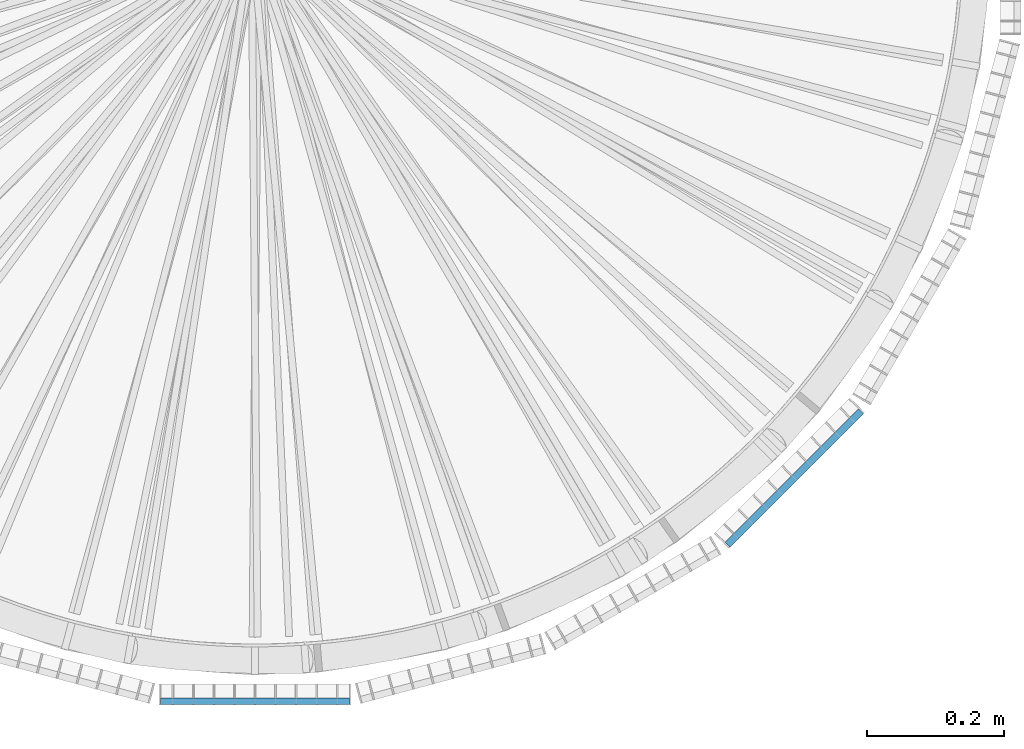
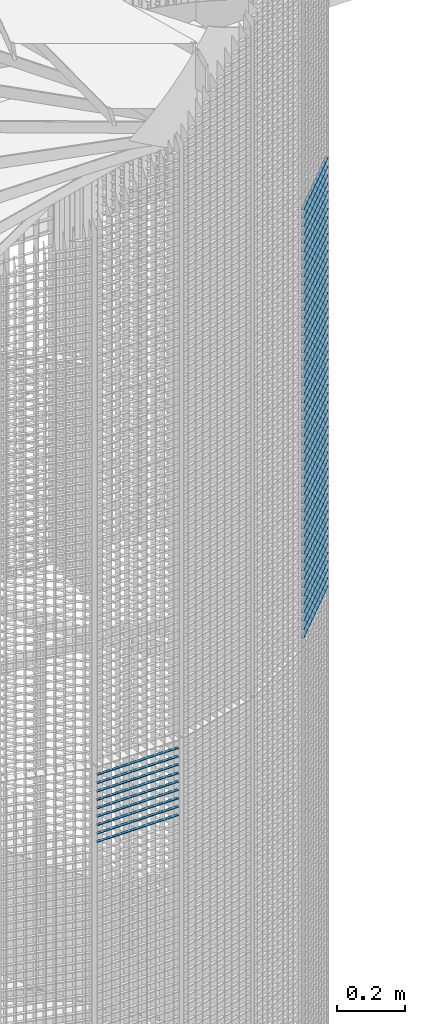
# One storey, part 400 of 1148: 61 beams, 2 elements without a shape of their own.
"""IFC2X3 building model written with IfcOpenShell, lengths in millimetres."""

import ifcopenshell
import ifcopenshell.guid

model = None  # the IFC model being written
_history = None  # IfcOwnerHistory: only IFC2X3 demands one
_inside = {}  # id of a spatial element -> (the spatial element, [elements in it])
_under = {}  # id of a project, library or spatial element -> (it, [spatial elements below it])
_declared = {}  # id of a project -> (the project, [libraries it declares])
_typed = {}  # id of a type object -> (the type object, [elements of that type])
_made_of = {}  # id of a material, layer set ... -> (it, [elements and type objects made of it])


def new_model(schema):
    """Start an empty IFC model of exactly this schema.

    Asked for "IFC4X3", IfcOpenShell would pick the latest addendum, in which some entities
    have other attributes; the version numbers below select the first issue.
    IFC2X3 requires an IfcOwnerHistory on every rooted entity: one is made here for all.
    """
    global model, _history
    if schema == "IFC4X3":
        model = ifcopenshell.file(schema_version=(4, 3, 0, 0))
    else:
        model = ifcopenshell.file(schema=schema)
    _inside.clear()
    _under.clear()
    _declared.clear()
    _typed.clear()
    _made_of.clear()
    _history = None
    if model.schema == "IFC2X3":
        org = make("IfcOrganization", Name="unknown")
        user = make(
            "IfcPersonAndOrganization",
            ThePerson=make("IfcPerson", FamilyName="unknown"),
            TheOrganization=org,
        )
        app = make(
            "IfcApplication",
            ApplicationDeveloper=org,
            Version="unknown",
            ApplicationFullName="unknown",
            ApplicationIdentifier="unknown",
        )
        _history = make(
            "IfcOwnerHistory",
            OwningUser=user,
            OwningApplication=app,
            ChangeAction="ADDED",
            CreationDate=0,
        )
    return model


def make(cls, **values):
    """One entity of the class cls with the attributes given. An attribute that is None is left unset."""
    return model.create_entity(
        cls, **{name: value for name, value in values.items() if value is not None}
    )


def rooted(cls, **values):
    """An entity with a GlobalId (a new one), such as an element, a storey or a relation."""
    return make(cls, GlobalId=ifcopenshell.guid.new(), OwnerHistory=_history, **values)


def si_unit(unit_type, name, prefix=None):
    """IfcSIUnit, for example si_unit("LENGTHUNIT", "METRE", prefix="MILLI")."""
    return make("IfcSIUnit", UnitType=unit_type, Prefix=prefix, Name=name)


def assignment(units):
    """IfcUnitAssignment: the units of a project."""
    return None if units is None else make("IfcUnitAssignment", Units=units)


def point(xyz):
    """IfcCartesianPoint."""
    return None if xyz is None else make("IfcCartesianPoint", Coordinates=xyz)


def direction(xyz):
    """IfcDirection."""
    return None if xyz is None else make("IfcDirection", DirectionRatios=xyz)


def frame(location, z_axis=None, x_axis=None):
    """IfcAxis2Placement3D, a coordinate frame: its origin and axes. An axis left out is left unset."""
    return make(
        "IfcAxis2Placement3D",
        Location=point(location),
        Axis=direction(z_axis),
        RefDirection=direction(x_axis),
    )


def frame_2d(location, x_axis=None):
    """IfcAxis2Placement2D, a coordinate frame in the plane: its origin and x axis."""
    return make(
        "IfcAxis2Placement2D", Location=point(location), RefDirection=direction(x_axis)
    )


def origin_with_axes():
    """The frame at (0, 0, 0) with the z axis (0, 0, 1) and the x axis (1, 0, 0) written out."""
    return frame((0.0, 0.0, 0.0), z_axis=(0.0, 0.0, 1.0), x_axis=(1.0, 0.0, 0.0))


def origin_2d_with_axis():
    """The frame at (0, 0) in the plane with the x axis (1, 0) written out."""
    return frame_2d((0.0, 0.0), x_axis=(1.0, 0.0))


def place(relative_to, where):
    """IfcLocalPlacement: puts the frame where relative to a parent placement (None: the world)."""
    return make(
        "IfcLocalPlacement", PlacementRelTo=relative_to, RelativePlacement=where
    )


def context(
    kind, dimensions, precision=None, world=None, true_north=None, identifier=None
):
    """IfcGeometricRepresentationContext, for example the 3D "Model" context."""
    return make(
        "IfcGeometricRepresentationContext",
        ContextIdentifier=identifier,
        ContextType=kind,
        CoordinateSpaceDimension=dimensions,
        Precision=precision,
        WorldCoordinateSystem=world,
        TrueNorth=true_north,
    )


def subcontext(parent, identifier, kind, view, scale=None):
    """IfcGeometricRepresentationSubContext, for example "Body" below "Model"."""
    return make(
        "IfcGeometricRepresentationSubContext",
        ContextIdentifier=identifier,
        ContextType=kind,
        ParentContext=parent,
        TargetScale=scale,
        TargetView=view,
    )


def project(units=None, contexts=None):
    """IfcProject with its units and contexts."""
    return rooted(
        "IfcProject",
        Name="project",
        RepresentationContexts=contexts,
        UnitsInContext=assignment(units),
    )


def spatial(cls, under=None, at=None, **own):
    """A site, building, storey or space (cls), placed at a placement, below another one or the project."""
    s = rooted(cls, ObjectPlacement=at, **own)
    if under is not None:
        _under.setdefault(under.id(), (under, []))[1].append(s)
    return s


def profile(cls, at=None, kind="AREA", **sizes):
    """A parametric profile (cls). Its sizes go by their IFC names, for example OverallWidth=200.0."""
    return make(cls, ProfileType=kind, Position=at, **sizes)


def rectangle(**sizes):
    """IfcRectangleProfileDef."""
    return profile("IfcRectangleProfileDef", **sizes)


def extrude(swept, where, along, depth):
    """IfcExtrudedAreaSolid: the profile swept, set in the frame where, extruded along a direction by depth."""
    return make(
        "IfcExtrudedAreaSolid",
        SweptArea=swept,
        Position=where,
        ExtrudedDirection=direction(along),
        Depth=depth,
    )


def shape(context_of_items, identifier, shape_type, items):
    """IfcShapeRepresentation: the items that make up one representation, for example the "Body"."""
    return make(
        "IfcShapeRepresentation",
        ContextOfItems=context_of_items,
        RepresentationIdentifier=identifier,
        RepresentationType=shape_type,
        Items=items,
    )


def material(Name=None, Category=None):
    """IfcMaterial."""
    return make("IfcMaterial", Name=Name, Category=Category)


def made_of(thing, what):
    """Note that an element or type object is made of a material, layer set ...; save() writes the relation."""
    if what is not None:
        _made_of.setdefault(what.id(), (what, []))[1].append(thing)
    return thing


def type_object(cls, material=None, **own):
    """A type object (cls), such as IfcWallType, which elements share."""
    return made_of(rooted(cls, **own), material)


def element(
    cls,
    number,
    at=None,
    inside=None,
    cuts=None,
    type_object=None,
    material=None,
    context=None,
    identifier="Body",
    shape_type=None,
    held_by="IfcProductDefinitionShape",
    body=None,
    shapes=None,
    **own,
):
    """One element of the class cls, such as IfcWall. Its Tag is "e" and its number.

    at: its placement. inside: the storey or other place that contains it. cuts: it is an
    opening in that element (IfcRelVoidsElement). A single representation is given by context,
    identifier, shape_type and body (its items); several are given by shapes. held_by: the class
    of the entity that holds the representations. save() writes the other relations.
    """
    e = rooted(cls, Tag="e%d" % number, ObjectPlacement=at, **own)
    if body is not None:
        shapes = [shape(context, identifier, shape_type, body)]
    if shapes is not None:
        e.Representation = make(held_by, Representations=shapes)
    if inside is not None:
        _inside.setdefault(inside.id(), (inside, []))[1].append(e)
    if cuts is not None:
        rooted(
            "IfcRelVoidsElement", RelatingBuildingElement=cuts, RelatedOpeningElement=e
        )
    if type_object is not None:
        _typed.setdefault(type_object.id(), (type_object, []))[1].append(e)
    return made_of(e, material)


def aggregate(whole, parts):
    """IfcRelAggregates: a whole, such as a stair, and the parts it consists of."""
    return rooted("IfcRelAggregates", RelatingObject=whole, RelatedObjects=parts)


def save(model, path):
    """Write the relations noted so far, then the file.

    IfcRelAggregates (storeys below a building ...), IfcRelContainedInSpatialStructure (elements
    in a storey), IfcRelDefinesByType, IfcRelAssociatesMaterial and IfcRelDeclares: one each for
    every whole, place, type object, material and project.
    """
    for whole, parts in _under.values():
        aggregate(whole, parts)
    for where, things in _inside.values():
        rooted(
            "IfcRelContainedInSpatialStructure",
            RelatedElements=things,
            RelatingStructure=where,
        )
    for kind, things in _typed.values():
        rooted("IfcRelDefinesByType", RelatedObjects=things, RelatingType=kind)
    for what, things in _made_of.values():
        rooted("IfcRelAssociatesMaterial", RelatedObjects=things, RelatingMaterial=what)
    for by, libraries in _declared.values():
        rooted("IfcRelDeclares", RelatingContext=by, RelatedDefinitions=libraries)
    model.write(path)


model = new_model("IFC2X3")

# Units and contexts
model_context = context("Model", 3, precision=1e-05, world=origin_with_axes())
body_context = subcontext(model_context, "Body", "Model", "MODEL_VIEW")
ifc_project = project(units=[si_unit("LENGTHUNIT", "METRE", prefix="MILLI"), si_unit("AREAUNIT", "SQUARE_METRE"), si_unit("VOLUMEUNIT", "CUBIC_METRE"), si_unit("MASSUNIT", "GRAM", prefix="KILO"), si_unit("TIMEUNIT", "SECOND"), si_unit("PLANEANGLEUNIT", "RADIAN"), si_unit("SOLIDANGLEUNIT", "STERADIAN"), si_unit("THERMODYNAMICTEMPERATUREUNIT", "DEGREE_CELSIUS"), si_unit("LUMINOUSINTENSITYUNIT", "LUMEN")], contexts=[model_context])

# Site, building, storey
site_placement = place(None, origin_with_axes())
site = spatial("IfcSite", under=ifc_project, at=site_placement, Name="Undefined", CompositionType="ELEMENT")
building_placement = place(site_placement, origin_with_axes())
building = spatial("IfcBuilding", under=site, at=building_placement, Name="Undefined", CompositionType="ELEMENT")
storey_placement = place(building_placement, origin_with_axes())
storey = spatial("IfcBuildingStorey", under=building, at=storey_placement, Name="Undefined", CompositionType="ELEMENT", Elevation=0.0)

# Assembly, beams
assembly_1_placement = place(storey_placement, origin_with_axes())
assembly_1 = element("IfcElementAssembly", 1, at=assembly_1_placement, inside=storey, Name="BORDURE", AssemblyPlace="NOTDEFINED", PredefinedType="NOTDEFINED")
ifc_material = material(Name="STEEL/S235JR")
beam_type = type_object("IfcBeamType", Name="PL2*10", PredefinedType="NOTDEFINED")
beam_1_placement = place(assembly_1_placement, frame((22484.9271684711, -689.771348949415, 7560.0), z_axis=(0.707106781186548, -0.707106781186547, 0.0), x_axis=(-0.70710678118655, -0.707106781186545, 0.0)))
beam_1 = element("IfcBeam", 2, at=beam_1_placement, type_object=beam_type, material=ifc_material, Name="ENTRETOISE", context=body_context, shape_type="SweptSolid", body=[
    extrude(rectangle(XDim=2.0, YDim=10.0, at=origin_2d_with_axis()), frame((275.999999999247, 9.09494701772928e-13, 1.53210777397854e-14), z_axis=(-1.0, 0.0, 0.0), x_axis=(0.0, -1.0, 0.0)), (0.0, 0.0, 1.0), 276.0),
])
beam_2_placement = place(assembly_1_placement, frame((22484.9271684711, -689.771348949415, 7530.0), z_axis=(0.707106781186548, -0.707106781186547, 0.0), x_axis=(-0.70710678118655, -0.707106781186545, 0.0)))
beam_2 = element("IfcBeam", 3, at=beam_2_placement, type_object=beam_type, material=ifc_material, Name="ENTRETOISE", context=body_context, shape_type="SweptSolid", body=[
    extrude(rectangle(XDim=2.0, YDim=10.0, at=origin_2d_with_axis()), frame((275.999999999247, 9.09494701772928e-13, 1.53210777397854e-14), z_axis=(-1.0, 0.0, 0.0), x_axis=(0.0, -1.0, 0.0)), (0.0, 0.0, 1.0), 276.0),
])
beam_3_placement = place(assembly_1_placement, frame((22484.9271684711, -689.771348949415, 7500.0), z_axis=(0.707106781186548, -0.707106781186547, 0.0), x_axis=(-0.70710678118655, -0.707106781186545, 0.0)))
beam_3 = element("IfcBeam", 4, at=beam_3_placement, type_object=beam_type, material=ifc_material, Name="ENTRETOISE", context=body_context, shape_type="SweptSolid", body=[
    extrude(rectangle(XDim=2.0, YDim=10.0, at=origin_2d_with_axis()), frame((275.999999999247, 9.09494701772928e-13, 1.53210777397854e-14), z_axis=(-1.0, 0.0, 0.0), x_axis=(0.0, -1.0, 0.0)), (0.0, 0.0, 1.0), 276.0),
])
beam_4_placement = place(assembly_1_placement, frame((22484.9271684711, -689.771348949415, 7470.0), z_axis=(0.707106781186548, -0.707106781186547, 0.0), x_axis=(-0.70710678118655, -0.707106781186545, 0.0)))
beam_4 = element("IfcBeam", 5, at=beam_4_placement, type_object=beam_type, material=ifc_material, Name="ENTRETOISE", context=body_context, shape_type="SweptSolid", body=[
    extrude(rectangle(XDim=2.0, YDim=10.0, at=origin_2d_with_axis()), frame((275.999999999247, 9.09494701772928e-13, 1.53210777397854e-14), z_axis=(-1.0, 0.0, 0.0), x_axis=(0.0, -1.0, 0.0)), (0.0, 0.0, 1.0), 276.0),
])
beam_5_placement = place(assembly_1_placement, frame((22484.9271684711, -689.771348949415, 7440.0), z_axis=(0.707106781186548, -0.707106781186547, 0.0), x_axis=(-0.70710678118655, -0.707106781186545, 0.0)))
beam_5 = element("IfcBeam", 6, at=beam_5_placement, type_object=beam_type, material=ifc_material, Name="ENTRETOISE", context=body_context, shape_type="SweptSolid", body=[
    extrude(rectangle(XDim=2.0, YDim=10.0, at=origin_2d_with_axis()), frame((275.999999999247, 9.09494701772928e-13, 1.53210777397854e-14), z_axis=(-1.0, 0.0, 0.0), x_axis=(0.0, -1.0, 0.0)), (0.0, 0.0, 1.0), 276.0),
])
beam_6_placement = place(assembly_1_placement, frame((22484.9271684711, -689.771348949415, 7410.0), z_axis=(0.707106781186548, -0.707106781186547, 0.0), x_axis=(-0.70710678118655, -0.707106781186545, 0.0)))
beam_6 = element("IfcBeam", 7, at=beam_6_placement, type_object=beam_type, material=ifc_material, Name="ENTRETOISE", context=body_context, shape_type="SweptSolid", body=[
    extrude(rectangle(XDim=2.0, YDim=10.0, at=origin_2d_with_axis()), frame((275.999999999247, 9.09494701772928e-13, 1.53210777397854e-14), z_axis=(-1.0, 0.0, 0.0), x_axis=(0.0, -1.0, 0.0)), (0.0, 0.0, 1.0), 276.0),
])
beam_7_placement = place(assembly_1_placement, frame((22484.9271684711, -689.771348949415, 7380.0), z_axis=(0.707106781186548, -0.707106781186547, 0.0), x_axis=(-0.70710678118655, -0.707106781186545, 0.0)))
beam_7 = element("IfcBeam", 8, at=beam_7_placement, type_object=beam_type, material=ifc_material, Name="ENTRETOISE", context=body_context, shape_type="SweptSolid", body=[
    extrude(rectangle(XDim=2.0, YDim=10.0, at=origin_2d_with_axis()), frame((275.999999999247, 9.09494701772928e-13, 1.53210777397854e-14), z_axis=(-1.0, 0.0, 0.0), x_axis=(0.0, -1.0, 0.0)), (0.0, 0.0, 1.0), 276.0),
])
beam_8_placement = place(assembly_1_placement, frame((22484.9271684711, -689.771348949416, 7350.0), z_axis=(0.707106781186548, -0.707106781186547, 0.0), x_axis=(-0.70710678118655, -0.707106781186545, 0.0)))
beam_8 = element("IfcBeam", 9, at=beam_8_placement, type_object=beam_type, material=ifc_material, Name="ENTRETOISE", context=body_context, shape_type="SweptSolid", body=[
    extrude(rectangle(XDim=2.0, YDim=10.0, at=origin_2d_with_axis()), frame((275.999999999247, 9.09494701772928e-13, 1.53210777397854e-14), z_axis=(-1.0, 0.0, 0.0), x_axis=(0.0, -1.0, 0.0)), (0.0, 0.0, 1.0), 276.0),
])
beam_9_placement = place(assembly_1_placement, frame((22484.9271684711, -689.771348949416, 7320.0), z_axis=(0.707106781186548, -0.707106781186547, 0.0), x_axis=(-0.70710678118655, -0.707106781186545, 0.0)))
beam_9 = element("IfcBeam", 10, at=beam_9_placement, type_object=beam_type, material=ifc_material, Name="ENTRETOISE", context=body_context, shape_type="SweptSolid", body=[
    extrude(rectangle(XDim=2.0, YDim=10.0, at=origin_2d_with_axis()), frame((275.999999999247, 9.09494701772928e-13, 1.53210777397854e-14), z_axis=(-1.0, 0.0, 0.0), x_axis=(0.0, -1.0, 0.0)), (0.0, 0.0, 1.0), 276.0),
])
beam_10_placement = place(assembly_1_placement, frame((22484.9271684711, -689.771348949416, 7290.0), z_axis=(0.707106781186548, -0.707106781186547, 0.0), x_axis=(-0.70710678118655, -0.707106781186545, 0.0)))
beam_10 = element("IfcBeam", 11, at=beam_10_placement, type_object=beam_type, material=ifc_material, Name="ENTRETOISE", context=body_context, shape_type="SweptSolid", body=[
    extrude(rectangle(XDim=2.0, YDim=10.0, at=origin_2d_with_axis()), frame((275.999999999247, 9.09494701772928e-13, 1.53210777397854e-14), z_axis=(-1.0, 0.0, 0.0), x_axis=(0.0, -1.0, 0.0)), (0.0, 0.0, 1.0), 276.0),
])
beam_11_placement = place(assembly_1_placement, frame((22484.9271684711, -689.771348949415, 7260.0), z_axis=(0.707106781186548, -0.707106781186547, 0.0), x_axis=(-0.70710678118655, -0.707106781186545, 0.0)))
beam_11 = element("IfcBeam", 12, at=beam_11_placement, type_object=beam_type, material=ifc_material, Name="ENTRETOISE", context=body_context, shape_type="SweptSolid", body=[
    extrude(rectangle(XDim=2.0, YDim=10.0, at=origin_2d_with_axis()), frame((275.999999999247, 9.09494701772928e-13, 1.53210777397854e-14), z_axis=(-1.0, 0.0, 0.0), x_axis=(0.0, -1.0, 0.0)), (0.0, 0.0, 1.0), 276.0),
])
beam_12_placement = place(assembly_1_placement, frame((22484.9271684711, -689.771348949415, 7230.0), z_axis=(0.707106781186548, -0.707106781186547, 0.0), x_axis=(-0.70710678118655, -0.707106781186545, 0.0)))
beam_12 = element("IfcBeam", 13, at=beam_12_placement, type_object=beam_type, material=ifc_material, Name="ENTRETOISE", context=body_context, shape_type="SweptSolid", body=[
    extrude(rectangle(XDim=2.0, YDim=10.0, at=origin_2d_with_axis()), frame((275.999999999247, 9.09494701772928e-13, 1.53210777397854e-14), z_axis=(-1.0, 0.0, 0.0), x_axis=(0.0, -1.0, 0.0)), (0.0, 0.0, 1.0), 276.0),
])
beam_13_placement = place(assembly_1_placement, frame((22484.9271684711, -689.771348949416, 7200.0), z_axis=(0.707106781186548, -0.707106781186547, 0.0), x_axis=(-0.70710678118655, -0.707106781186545, 0.0)))
beam_13 = element("IfcBeam", 14, at=beam_13_placement, type_object=beam_type, material=ifc_material, Name="ENTRETOISE", context=body_context, shape_type="SweptSolid", body=[
    extrude(rectangle(XDim=2.0, YDim=10.0, at=origin_2d_with_axis()), frame((275.999999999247, 9.09494701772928e-13, 1.53210777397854e-14), z_axis=(-1.0, 0.0, 0.0), x_axis=(0.0, -1.0, 0.0)), (0.0, 0.0, 1.0), 276.0),
])
beam_14_placement = place(assembly_1_placement, frame((22484.9271684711, -689.771348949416, 7170.0), z_axis=(0.707106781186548, -0.707106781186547, 0.0), x_axis=(-0.70710678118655, -0.707106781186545, 0.0)))
beam_14 = element("IfcBeam", 15, at=beam_14_placement, type_object=beam_type, material=ifc_material, Name="ENTRETOISE", context=body_context, shape_type="SweptSolid", body=[
    extrude(rectangle(XDim=2.0, YDim=10.0, at=origin_2d_with_axis()), frame((275.999999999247, 9.09494701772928e-13, 1.53210777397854e-14), z_axis=(-1.0, 0.0, 0.0), x_axis=(0.0, -1.0, 0.0)), (0.0, 0.0, 1.0), 276.0),
])
beam_15_placement = place(assembly_1_placement, frame((22484.9271684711, -689.771348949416, 7140.0), z_axis=(0.707106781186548, -0.707106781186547, 0.0), x_axis=(-0.70710678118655, -0.707106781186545, 0.0)))
beam_15 = element("IfcBeam", 16, at=beam_15_placement, type_object=beam_type, material=ifc_material, Name="ENTRETOISE", context=body_context, shape_type="SweptSolid", body=[
    extrude(rectangle(XDim=2.0, YDim=10.0, at=origin_2d_with_axis()), frame((275.999999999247, 9.09494701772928e-13, 1.53210777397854e-14), z_axis=(-1.0, 0.0, 0.0), x_axis=(0.0, -1.0, 0.0)), (0.0, 0.0, 1.0), 276.0),
])
beam_16_placement = place(assembly_1_placement, frame((22484.9271684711, -689.771348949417, 6720.0), z_axis=(0.707106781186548, -0.707106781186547, 0.0), x_axis=(-0.70710678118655, -0.707106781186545, 0.0)))
beam_16 = element("IfcBeam", 17, at=beam_16_placement, type_object=beam_type, material=ifc_material, Name="ENTRETOISE", context=body_context, shape_type="SweptSolid", body=[
    extrude(rectangle(XDim=2.0, YDim=10.0, at=origin_2d_with_axis()), frame((275.999999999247, 9.09494701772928e-13, 1.53210777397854e-14), z_axis=(-1.0, 0.0, 0.0), x_axis=(0.0, -1.0, 0.0)), (0.0, 0.0, 1.0), 276.0),
])
beam_17_placement = place(assembly_1_placement, frame((22484.9271684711, -689.771348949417, 6690.0), z_axis=(0.707106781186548, -0.707106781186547, 0.0), x_axis=(-0.70710678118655, -0.707106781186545, 0.0)))
beam_17 = element("IfcBeam", 18, at=beam_17_placement, type_object=beam_type, material=ifc_material, Name="ENTRETOISE", context=body_context, shape_type="SweptSolid", body=[
    extrude(rectangle(XDim=2.0, YDim=10.0, at=origin_2d_with_axis()), frame((275.999999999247, 9.09494701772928e-13, 1.53210777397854e-14), z_axis=(-1.0, 0.0, 0.0), x_axis=(0.0, -1.0, 0.0)), (0.0, 0.0, 1.0), 276.0),
])
beam_18_placement = place(assembly_1_placement, frame((22484.9271684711, -689.771348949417, 6750.0), z_axis=(0.707106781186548, -0.707106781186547, 0.0), x_axis=(-0.70710678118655, -0.707106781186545, 0.0)))
beam_18 = element("IfcBeam", 19, at=beam_18_placement, type_object=beam_type, material=ifc_material, Name="ENTRETOISE", context=body_context, shape_type="SweptSolid", body=[
    extrude(rectangle(XDim=2.0, YDim=10.0, at=origin_2d_with_axis()), frame((275.999999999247, 9.09494701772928e-13, 1.53210777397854e-14), z_axis=(-1.0, 0.0, 0.0), x_axis=(0.0, -1.0, 0.0)), (0.0, 0.0, 1.0), 276.0),
])
beam_19_placement = place(assembly_1_placement, frame((22484.9271684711, -689.771348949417, 6660.0), z_axis=(0.707106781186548, -0.707106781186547, 0.0), x_axis=(-0.70710678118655, -0.707106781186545, 0.0)))
beam_19 = element("IfcBeam", 20, at=beam_19_placement, type_object=beam_type, material=ifc_material, Name="ENTRETOISE", context=body_context, shape_type="SweptSolid", body=[
    extrude(rectangle(XDim=2.0, YDim=10.0, at=origin_2d_with_axis()), frame((275.999999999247, 9.09494701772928e-13, 1.53210777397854e-14), z_axis=(-1.0, 0.0, 0.0), x_axis=(0.0, -1.0, 0.0)), (0.0, 0.0, 1.0), 276.0),
])
beam_20_placement = place(assembly_1_placement, frame((22484.9271684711, -689.771348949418, 6630.0), z_axis=(0.707106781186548, -0.707106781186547, 0.0), x_axis=(-0.70710678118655, -0.707106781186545, 0.0)))
beam_20 = element("IfcBeam", 21, at=beam_20_placement, type_object=beam_type, material=ifc_material, Name="ENTRETOISE", context=body_context, shape_type="SweptSolid", body=[
    extrude(rectangle(XDim=2.0, YDim=10.0, at=origin_2d_with_axis()), frame((275.999999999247, 9.09494701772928e-13, 1.53210777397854e-14), z_axis=(-1.0, 0.0, 0.0), x_axis=(0.0, -1.0, 0.0)), (0.0, 0.0, 1.0), 276.0),
])
beam_21_placement = place(assembly_1_placement, frame((22484.9271684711, -689.771348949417, 6780.0), z_axis=(0.707106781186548, -0.707106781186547, 0.0), x_axis=(-0.70710678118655, -0.707106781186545, 0.0)))
beam_21 = element("IfcBeam", 22, at=beam_21_placement, type_object=beam_type, material=ifc_material, Name="ENTRETOISE", context=body_context, shape_type="SweptSolid", body=[
    extrude(rectangle(XDim=2.0, YDim=10.0, at=origin_2d_with_axis()), frame((275.999999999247, 9.09494701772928e-13, 1.53210777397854e-14), z_axis=(-1.0, 0.0, 0.0), x_axis=(0.0, -1.0, 0.0)), (0.0, 0.0, 1.0), 276.0),
])
beam_22_placement = place(assembly_1_placement, frame((22484.9271684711, -689.771348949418, 6600.0), z_axis=(0.707106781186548, -0.707106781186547, 0.0), x_axis=(-0.70710678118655, -0.707106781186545, 0.0)))
beam_22 = element("IfcBeam", 23, at=beam_22_placement, type_object=beam_type, material=ifc_material, Name="ENTRETOISE", context=body_context, shape_type="SweptSolid", body=[
    extrude(rectangle(XDim=2.0, YDim=10.0, at=origin_2d_with_axis()), frame((275.999999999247, 9.09494701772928e-13, 1.53210777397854e-14), z_axis=(-1.0, 0.0, 0.0), x_axis=(0.0, -1.0, 0.0)), (0.0, 0.0, 1.0), 276.0),
])
beam_23_placement = place(assembly_1_placement, frame((22484.9271684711, -689.771348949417, 6810.0), z_axis=(0.707106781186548, -0.707106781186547, 0.0), x_axis=(-0.70710678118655, -0.707106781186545, 0.0)))
beam_23 = element("IfcBeam", 24, at=beam_23_placement, type_object=beam_type, material=ifc_material, Name="ENTRETOISE", context=body_context, shape_type="SweptSolid", body=[
    extrude(rectangle(XDim=2.0, YDim=10.0, at=origin_2d_with_axis()), frame((275.999999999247, 9.09494701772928e-13, 1.53210777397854e-14), z_axis=(-1.0, 0.0, 0.0), x_axis=(0.0, -1.0, 0.0)), (0.0, 0.0, 1.0), 276.0),
])
beam_24_placement = place(assembly_1_placement, frame((22484.9271684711, -689.771348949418, 6570.0), z_axis=(0.707106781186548, -0.707106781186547, 0.0), x_axis=(-0.70710678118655, -0.707106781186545, 0.0)))
beam_24 = element("IfcBeam", 25, at=beam_24_placement, type_object=beam_type, material=ifc_material, Name="ENTRETOISE", context=body_context, shape_type="SweptSolid", body=[
    extrude(rectangle(XDim=2.0, YDim=10.0, at=origin_2d_with_axis()), frame((275.999999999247, 9.09494701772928e-13, 1.53210777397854e-14), z_axis=(-1.0, 0.0, 0.0), x_axis=(0.0, -1.0, 0.0)), (0.0, 0.0, 1.0), 276.0),
])
beam_25_placement = place(assembly_1_placement, frame((22484.9271684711, -689.771348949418, 6540.0), z_axis=(0.707106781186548, -0.707106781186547, 0.0), x_axis=(-0.70710678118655, -0.707106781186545, 0.0)))
beam_25 = element("IfcBeam", 26, at=beam_25_placement, type_object=beam_type, material=ifc_material, Name="ENTRETOISE", context=body_context, shape_type="SweptSolid", body=[
    extrude(rectangle(XDim=2.0, YDim=10.0, at=origin_2d_with_axis()), frame((275.999999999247, 9.09494701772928e-13, 1.53210777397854e-14), z_axis=(-1.0, 0.0, 0.0), x_axis=(0.0, -1.0, 0.0)), (0.0, 0.0, 1.0), 276.0),
])
beam_26_placement = place(assembly_1_placement, frame((22484.9271684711, -689.771348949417, 6840.0), z_axis=(0.707106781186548, -0.707106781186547, 0.0), x_axis=(-0.70710678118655, -0.707106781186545, 0.0)))
beam_26 = element("IfcBeam", 27, at=beam_26_placement, type_object=beam_type, material=ifc_material, Name="ENTRETOISE", context=body_context, shape_type="SweptSolid", body=[
    extrude(rectangle(XDim=2.0, YDim=10.0, at=origin_2d_with_axis()), frame((275.999999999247, 9.09494701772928e-13, 1.53210777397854e-14), z_axis=(-1.0, 0.0, 0.0), x_axis=(0.0, -1.0, 0.0)), (0.0, 0.0, 1.0), 276.0),
])
beam_27_placement = place(assembly_1_placement, frame((22484.9271684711, -689.771348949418, 6510.0), z_axis=(0.707106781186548, -0.707106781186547, 0.0), x_axis=(-0.70710678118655, -0.707106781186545, 0.0)))
beam_27 = element("IfcBeam", 28, at=beam_27_placement, type_object=beam_type, material=ifc_material, Name="ENTRETOISE", context=body_context, shape_type="SweptSolid", body=[
    extrude(rectangle(XDim=2.0, YDim=10.0, at=origin_2d_with_axis()), frame((275.999999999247, 9.09494701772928e-13, 1.53210777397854e-14), z_axis=(-1.0, 0.0, 0.0), x_axis=(0.0, -1.0, 0.0)), (0.0, 0.0, 1.0), 276.0),
])
beam_28_placement = place(assembly_1_placement, frame((22484.9271684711, -689.771348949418, 6480.0), z_axis=(0.707106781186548, -0.707106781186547, 0.0), x_axis=(-0.70710678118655, -0.707106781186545, 0.0)))
beam_28 = element("IfcBeam", 29, at=beam_28_placement, type_object=beam_type, material=ifc_material, Name="ENTRETOISE", context=body_context, shape_type="SweptSolid", body=[
    extrude(rectangle(XDim=2.0, YDim=10.0, at=origin_2d_with_axis()), frame((275.999999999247, 9.09494701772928e-13, 1.53210777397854e-14), z_axis=(-1.0, 0.0, 0.0), x_axis=(0.0, -1.0, 0.0)), (0.0, 0.0, 1.0), 276.0),
])
beam_29_placement = place(assembly_1_placement, frame((22484.9271684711, -689.771348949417, 6870.0), z_axis=(0.707106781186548, -0.707106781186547, 0.0), x_axis=(-0.70710678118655, -0.707106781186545, 0.0)))
beam_29 = element("IfcBeam", 30, at=beam_29_placement, type_object=beam_type, material=ifc_material, Name="ENTRETOISE", context=body_context, shape_type="SweptSolid", body=[
    extrude(rectangle(XDim=2.0, YDim=10.0, at=origin_2d_with_axis()), frame((275.999999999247, 9.09494701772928e-13, 1.53210777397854e-14), z_axis=(-1.0, 0.0, 0.0), x_axis=(0.0, -1.0, 0.0)), (0.0, 0.0, 1.0), 276.0),
])
beam_30_placement = place(assembly_1_placement, frame((22484.9271684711, -689.771348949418, 6450.0), z_axis=(0.707106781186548, -0.707106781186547, 0.0), x_axis=(-0.70710678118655, -0.707106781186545, 0.0)))
beam_30 = element("IfcBeam", 31, at=beam_30_placement, type_object=beam_type, material=ifc_material, Name="ENTRETOISE", context=body_context, shape_type="SweptSolid", body=[
    extrude(rectangle(XDim=2.0, YDim=10.0, at=origin_2d_with_axis()), frame((275.999999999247, 9.09494701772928e-13, 1.53210777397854e-14), z_axis=(-1.0, 0.0, 0.0), x_axis=(0.0, -1.0, 0.0)), (0.0, 0.0, 1.0), 276.0),
])
beam_31_placement = place(assembly_1_placement, frame((22484.9271684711, -689.771348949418, 6420.0), z_axis=(0.707106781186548, -0.707106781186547, 0.0), x_axis=(-0.70710678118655, -0.707106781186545, 0.0)))
beam_31 = element("IfcBeam", 32, at=beam_31_placement, type_object=beam_type, material=ifc_material, Name="ENTRETOISE", context=body_context, shape_type="SweptSolid", body=[
    extrude(rectangle(XDim=2.0, YDim=10.0, at=origin_2d_with_axis()), frame((275.999999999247, 9.09494701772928e-13, 1.53210777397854e-14), z_axis=(-1.0, 0.0, 0.0), x_axis=(0.0, -1.0, 0.0)), (0.0, 0.0, 1.0), 276.0),
])
beam_32_placement = place(assembly_1_placement, frame((22484.9271684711, -689.771348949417, 6900.0), z_axis=(0.707106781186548, -0.707106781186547, 0.0), x_axis=(-0.70710678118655, -0.707106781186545, 0.0)))
beam_32 = element("IfcBeam", 33, at=beam_32_placement, type_object=beam_type, material=ifc_material, Name="ENTRETOISE", context=body_context, shape_type="SweptSolid", body=[
    extrude(rectangle(XDim=2.0, YDim=10.0, at=origin_2d_with_axis()), frame((275.999999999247, 9.09494701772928e-13, 1.53210777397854e-14), z_axis=(-1.0, 0.0, 0.0), x_axis=(0.0, -1.0, 0.0)), (0.0, 0.0, 1.0), 276.0),
])
beam_33_placement = place(assembly_1_placement, frame((22484.9271684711, -689.771348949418, 6390.0), z_axis=(0.707106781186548, -0.707106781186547, 0.0), x_axis=(-0.70710678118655, -0.707106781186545, 0.0)))
beam_33 = element("IfcBeam", 34, at=beam_33_placement, type_object=beam_type, material=ifc_material, Name="ENTRETOISE", context=body_context, shape_type="SweptSolid", body=[
    extrude(rectangle(XDim=2.0, YDim=10.0, at=origin_2d_with_axis()), frame((275.999999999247, 9.09494701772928e-13, 1.53210777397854e-14), z_axis=(-1.0, 0.0, 0.0), x_axis=(0.0, -1.0, 0.0)), (0.0, 0.0, 1.0), 276.0),
])
beam_34_placement = place(assembly_1_placement, frame((22484.9271684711, -689.771348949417, 6930.0), z_axis=(0.707106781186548, -0.707106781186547, 0.0), x_axis=(-0.70710678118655, -0.707106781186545, 0.0)))
beam_34 = element("IfcBeam", 35, at=beam_34_placement, type_object=beam_type, material=ifc_material, Name="ENTRETOISE", context=body_context, shape_type="SweptSolid", body=[
    extrude(rectangle(XDim=2.0, YDim=10.0, at=origin_2d_with_axis()), frame((275.999999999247, 9.09494701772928e-13, 1.53210777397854e-14), z_axis=(-1.0, 0.0, 0.0), x_axis=(0.0, -1.0, 0.0)), (0.0, 0.0, 1.0), 276.0),
])
beam_35_placement = place(assembly_1_placement, frame((22484.9271684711, -689.771348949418, 6360.0), z_axis=(0.707106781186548, -0.707106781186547, 0.0), x_axis=(-0.70710678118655, -0.707106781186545, 0.0)))
beam_35 = element("IfcBeam", 36, at=beam_35_placement, type_object=beam_type, material=ifc_material, Name="ENTRETOISE", context=body_context, shape_type="SweptSolid", body=[
    extrude(rectangle(XDim=2.0, YDim=10.0, at=origin_2d_with_axis()), frame((275.999999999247, 9.09494701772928e-13, 1.53210777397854e-14), z_axis=(-1.0, 0.0, 0.0), x_axis=(0.0, -1.0, 0.0)), (0.0, 0.0, 1.0), 276.0),
])
beam_36_placement = place(assembly_1_placement, frame((22484.9271684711, -689.771348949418, 6330.0), z_axis=(0.707106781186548, -0.707106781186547, 0.0), x_axis=(-0.70710678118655, -0.707106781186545, 0.0)))
beam_36 = element("IfcBeam", 37, at=beam_36_placement, type_object=beam_type, material=ifc_material, Name="ENTRETOISE", context=body_context, shape_type="SweptSolid", body=[
    extrude(rectangle(XDim=2.0, YDim=10.0, at=origin_2d_with_axis()), frame((275.999999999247, 9.09494701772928e-13, 1.53210777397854e-14), z_axis=(-1.0, 0.0, 0.0), x_axis=(0.0, -1.0, 0.0)), (0.0, 0.0, 1.0), 276.0),
])
beam_37_placement = place(assembly_1_placement, frame((22484.9271684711, -689.771348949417, 6960.0), z_axis=(0.707106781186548, -0.707106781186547, 0.0), x_axis=(-0.70710678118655, -0.707106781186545, 0.0)))
beam_37 = element("IfcBeam", 38, at=beam_37_placement, type_object=beam_type, material=ifc_material, Name="ENTRETOISE", context=body_context, shape_type="SweptSolid", body=[
    extrude(rectangle(XDim=2.0, YDim=10.0, at=origin_2d_with_axis()), frame((275.999999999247, 9.09494701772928e-13, 1.53210777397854e-14), z_axis=(-1.0, 0.0, 0.0), x_axis=(0.0, -1.0, 0.0)), (0.0, 0.0, 1.0), 276.0),
])
beam_38_placement = place(assembly_1_placement, frame((22484.9271684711, -689.771348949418, 6300.0), z_axis=(0.707106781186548, -0.707106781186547, 0.0), x_axis=(-0.70710678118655, -0.707106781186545, 0.0)))
beam_38 = element("IfcBeam", 39, at=beam_38_placement, type_object=beam_type, material=ifc_material, Name="ENTRETOISE", context=body_context, shape_type="SweptSolid", body=[
    extrude(rectangle(XDim=2.0, YDim=10.0, at=origin_2d_with_axis()), frame((275.999999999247, 9.09494701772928e-13, 1.53210777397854e-14), z_axis=(-1.0, 0.0, 0.0), x_axis=(0.0, -1.0, 0.0)), (0.0, 0.0, 1.0), 276.0),
])
beam_39_placement = place(assembly_1_placement, frame((22484.9271684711, -689.771348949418, 6270.0), z_axis=(0.707106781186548, -0.707106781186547, 0.0), x_axis=(-0.70710678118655, -0.707106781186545, 0.0)))
beam_39 = element("IfcBeam", 40, at=beam_39_placement, type_object=beam_type, material=ifc_material, Name="ENTRETOISE", context=body_context, shape_type="SweptSolid", body=[
    extrude(rectangle(XDim=2.0, YDim=10.0, at=origin_2d_with_axis()), frame((275.999999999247, 9.09494701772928e-13, 1.53210777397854e-14), z_axis=(-1.0, 0.0, 0.0), x_axis=(0.0, -1.0, 0.0)), (0.0, 0.0, 1.0), 276.0),
])
beam_40_placement = place(assembly_1_placement, frame((22484.9271684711, -689.771348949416, 6990.0), z_axis=(0.707106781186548, -0.707106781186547, 0.0), x_axis=(-0.70710678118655, -0.707106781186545, 0.0)))
beam_40 = element("IfcBeam", 41, at=beam_40_placement, type_object=beam_type, material=ifc_material, Name="ENTRETOISE", context=body_context, shape_type="SweptSolid", body=[
    extrude(rectangle(XDim=2.0, YDim=10.0, at=origin_2d_with_axis()), frame((275.999999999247, 9.09494701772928e-13, 1.53210777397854e-14), z_axis=(-1.0, 0.0, 0.0), x_axis=(0.0, -1.0, 0.0)), (0.0, 0.0, 1.0), 276.0),
])
beam_41_placement = place(assembly_1_placement, frame((22484.9271684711, -689.771348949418, 6240.0), z_axis=(0.707106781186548, -0.707106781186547, 0.0), x_axis=(-0.70710678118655, -0.707106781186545, 0.0)))
beam_41 = element("IfcBeam", 42, at=beam_41_placement, type_object=beam_type, material=ifc_material, Name="ENTRETOISE", context=body_context, shape_type="SweptSolid", body=[
    extrude(rectangle(XDim=2.0, YDim=10.0, at=origin_2d_with_axis()), frame((275.999999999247, 9.09494701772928e-13, 1.53210777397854e-14), z_axis=(-1.0, 0.0, 0.0), x_axis=(0.0, -1.0, 0.0)), (0.0, 0.0, 1.0), 276.0),
])
beam_42_placement = place(assembly_1_placement, frame((22484.9271684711, -689.771348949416, 7020.0), z_axis=(0.707106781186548, -0.707106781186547, 0.0), x_axis=(-0.70710678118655, -0.707106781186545, 0.0)))
beam_42 = element("IfcBeam", 43, at=beam_42_placement, type_object=beam_type, material=ifc_material, Name="ENTRETOISE", context=body_context, shape_type="SweptSolid", body=[
    extrude(rectangle(XDim=2.0, YDim=10.0, at=origin_2d_with_axis()), frame((275.999999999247, 9.09494701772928e-13, 1.53210777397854e-14), z_axis=(-1.0, 0.0, 0.0), x_axis=(0.0, -1.0, 0.0)), (0.0, 0.0, 1.0), 276.0),
])
beam_43_placement = place(assembly_1_placement, frame((22484.9271684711, -689.771348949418, 6210.0), z_axis=(0.707106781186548, -0.707106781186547, 0.0), x_axis=(-0.70710678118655, -0.707106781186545, 0.0)))
beam_43 = element("IfcBeam", 44, at=beam_43_placement, type_object=beam_type, material=ifc_material, Name="ENTRETOISE", context=body_context, shape_type="SweptSolid", body=[
    extrude(rectangle(XDim=2.0, YDim=10.0, at=origin_2d_with_axis()), frame((275.999999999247, 9.09494701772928e-13, 1.53210777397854e-14), z_axis=(-1.0, 0.0, 0.0), x_axis=(0.0, -1.0, 0.0)), (0.0, 0.0, 1.0), 276.0),
])
beam_44_placement = place(assembly_1_placement, frame((22484.9271684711, -689.771348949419, 6180.0), z_axis=(0.707106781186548, -0.707106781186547, 0.0), x_axis=(-0.70710678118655, -0.707106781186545, 0.0)))
beam_44 = element("IfcBeam", 45, at=beam_44_placement, type_object=beam_type, material=ifc_material, Name="ENTRETOISE", context=body_context, shape_type="SweptSolid", body=[
    extrude(rectangle(XDim=2.0, YDim=10.0, at=origin_2d_with_axis()), frame((275.999999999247, 9.09494701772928e-13, 1.53210777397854e-14), z_axis=(-1.0, 0.0, 0.0), x_axis=(0.0, -1.0, 0.0)), (0.0, 0.0, 1.0), 276.0),
])
beam_45_placement = place(assembly_1_placement, frame((22484.9271684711, -689.771348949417, 7050.0), z_axis=(0.707106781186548, -0.707106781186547, 0.0), x_axis=(-0.70710678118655, -0.707106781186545, 0.0)))
beam_45 = element("IfcBeam", 46, at=beam_45_placement, type_object=beam_type, material=ifc_material, Name="ENTRETOISE", context=body_context, shape_type="SweptSolid", body=[
    extrude(rectangle(XDim=2.0, YDim=10.0, at=origin_2d_with_axis()), frame((275.999999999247, 9.09494701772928e-13, 1.53210777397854e-14), z_axis=(-1.0, 0.0, 0.0), x_axis=(0.0, -1.0, 0.0)), (0.0, 0.0, 1.0), 276.0),
])
beam_46_placement = place(assembly_1_placement, frame((22484.9271684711, -689.771348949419, 6150.0), z_axis=(0.707106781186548, -0.707106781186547, 0.0), x_axis=(-0.70710678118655, -0.707106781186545, 0.0)))
beam_46 = element("IfcBeam", 47, at=beam_46_placement, type_object=beam_type, material=ifc_material, Name="ENTRETOISE", context=body_context, shape_type="SweptSolid", body=[
    extrude(rectangle(XDim=2.0, YDim=10.0, at=origin_2d_with_axis()), frame((275.999999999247, 9.09494701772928e-13, 1.53210777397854e-14), z_axis=(-1.0, 0.0, 0.0), x_axis=(0.0, -1.0, 0.0)), (0.0, 0.0, 1.0), 276.0),
])
beam_47_placement = place(assembly_1_placement, frame((22484.9271684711, -689.771348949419, 6120.0), z_axis=(0.707106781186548, -0.707106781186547, 0.0), x_axis=(-0.70710678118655, -0.707106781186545, 0.0)))
beam_47 = element("IfcBeam", 48, at=beam_47_placement, type_object=beam_type, material=ifc_material, Name="ENTRETOISE", context=body_context, shape_type="SweptSolid", body=[
    extrude(rectangle(XDim=2.0, YDim=10.0, at=origin_2d_with_axis()), frame((275.999999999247, 9.09494701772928e-13, 1.53210777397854e-14), z_axis=(-1.0, 0.0, 0.0), x_axis=(0.0, -1.0, 0.0)), (0.0, 0.0, 1.0), 276.0),
])
beam_48_placement = place(assembly_1_placement, frame((22484.9271684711, -689.771348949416, 7080.0), z_axis=(0.707106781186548, -0.707106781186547, 0.0), x_axis=(-0.70710678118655, -0.707106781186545, 0.0)))
beam_48 = element("IfcBeam", 49, at=beam_48_placement, type_object=beam_type, material=ifc_material, Name="ENTRETOISE", context=body_context, shape_type="SweptSolid", body=[
    extrude(rectangle(XDim=2.0, YDim=10.0, at=origin_2d_with_axis()), frame((275.999999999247, 9.09494701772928e-13, 1.53210777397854e-14), z_axis=(-1.0, 0.0, 0.0), x_axis=(0.0, -1.0, 0.0)), (0.0, 0.0, 1.0), 276.0),
])
beam_49_placement = place(assembly_1_placement, frame((22484.9271684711, -689.771348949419, 6090.0), z_axis=(0.707106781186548, -0.707106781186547, 0.0), x_axis=(-0.70710678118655, -0.707106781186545, 0.0)))
beam_49 = element("IfcBeam", 50, at=beam_49_placement, type_object=beam_type, material=ifc_material, Name="ENTRETOISE", context=body_context, shape_type="SweptSolid", body=[
    extrude(rectangle(XDim=2.0, YDim=10.0, at=origin_2d_with_axis()), frame((275.999999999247, 9.09494701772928e-13, 1.53210777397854e-14), z_axis=(-1.0, 0.0, 0.0), x_axis=(0.0, -1.0, 0.0)), (0.0, 0.0, 1.0), 276.0),
])
beam_50_placement = place(assembly_1_placement, frame((22484.9271684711, -689.771348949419, 6060.0), z_axis=(0.707106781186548, -0.707106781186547, 0.0), x_axis=(-0.70710678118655, -0.707106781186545, 0.0)))
beam_50 = element("IfcBeam", 51, at=beam_50_placement, type_object=beam_type, material=ifc_material, Name="ENTRETOISE", context=body_context, shape_type="SweptSolid", body=[
    extrude(rectangle(XDim=2.0, YDim=10.0, at=origin_2d_with_axis()), frame((275.999999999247, 9.09494701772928e-13, 1.53210777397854e-14), z_axis=(-1.0, 0.0, 0.0), x_axis=(0.0, -1.0, 0.0)), (0.0, 0.0, 1.0), 276.0),
])
beam_51_placement = place(assembly_1_placement, frame((22484.9271684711, -689.771348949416, 7110.0), z_axis=(0.707106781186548, -0.707106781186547, 0.0), x_axis=(-0.70710678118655, -0.707106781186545, 0.0)))
beam_51 = element("IfcBeam", 52, at=beam_51_placement, type_object=beam_type, material=ifc_material, Name="ENTRETOISE", context=body_context, shape_type="SweptSolid", body=[
    extrude(rectangle(XDim=2.0, YDim=10.0, at=origin_2d_with_axis()), frame((275.999999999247, 9.09494701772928e-13, 1.53210777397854e-14), z_axis=(-1.0, 0.0, 0.0), x_axis=(0.0, -1.0, 0.0)), (0.0, 0.0, 1.0), 276.0),
])
beam_52_placement = place(assembly_1_placement, frame((22484.9271684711, -689.771348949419, 6030.0), z_axis=(0.707106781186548, -0.707106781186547, 0.0), x_axis=(-0.70710678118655, -0.707106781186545, 0.0)))
beam_52 = element("IfcBeam", 53, at=beam_52_placement, type_object=beam_type, material=ifc_material, Name="ENTRETOISE", context=body_context, shape_type="SweptSolid", body=[
    extrude(rectangle(XDim=2.0, YDim=10.0, at=origin_2d_with_axis()), frame((275.999999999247, 9.09494701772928e-13, 1.53210777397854e-14), z_axis=(-1.0, 0.0, 0.0), x_axis=(0.0, -1.0, 0.0)), (0.0, 0.0, 1.0), 276.0),
])
aggregate(assembly_1, [beam_1, beam_2, beam_3, beam_4, beam_5, beam_6, beam_7, beam_8, beam_9, beam_10, beam_11, beam_12, beam_13, beam_14, beam_15, beam_16, beam_17, beam_18, beam_19, beam_20, beam_21, beam_22, beam_23, beam_24, beam_25, beam_26, beam_27, beam_28, beam_29, beam_30, beam_31, beam_32, beam_33, beam_34, beam_35, beam_36, beam_37, beam_38, beam_39, beam_40, beam_41, beam_42, beam_43, beam_44, beam_45, beam_46, beam_47, beam_48, beam_49, beam_50, beam_51, beam_52])

assembly_2_placement = place(storey_placement, origin_with_axes())
assembly_2 = element("IfcElementAssembly", 54, at=assembly_2_placement, inside=storey, Name="BORDURE", AssemblyPlace="NOTDEFINED", PredefinedType="NOTDEFINED")
beam_53_placement = place(assembly_2_placement, frame((21737.9960033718, -1113.47999999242, 5970.0), z_axis=(0.0, -1.0, 0.0), x_axis=(-1.0, 0.0, 0.0)))
beam_53 = element("IfcBeam", 55, at=beam_53_placement, type_object=beam_type, material=ifc_material, Name="ENTRETOISE", context=body_context, shape_type="SweptSolid", body=[
    extrude(rectangle(XDim=2.0, YDim=10.0, at=origin_2d_with_axis()), frame((275.999999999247, 9.09494701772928e-13, 1.53210777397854e-14), z_axis=(-1.0, 0.0, 0.0), x_axis=(0.0, -1.0, 0.0)), (0.0, 0.0, 1.0), 276.0),
])
beam_54_placement = place(assembly_2_placement, frame((21737.9960033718, -1113.47999999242, 5940.0), z_axis=(0.0, -1.0, 0.0), x_axis=(-1.0, 0.0, 0.0)))
beam_54 = element("IfcBeam", 56, at=beam_54_placement, type_object=beam_type, material=ifc_material, Name="ENTRETOISE", context=body_context, shape_type="SweptSolid", body=[
    extrude(rectangle(XDim=2.0, YDim=10.0, at=origin_2d_with_axis()), frame((275.999999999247, 9.09494701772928e-13, 1.53210777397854e-14), z_axis=(-1.0, 0.0, 0.0), x_axis=(0.0, -1.0, 0.0)), (0.0, 0.0, 1.0), 276.0),
])
beam_55_placement = place(assembly_2_placement, frame((21737.9960033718, -1113.47999999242, 5910.0), z_axis=(0.0, -1.0, 0.0), x_axis=(-1.0, 0.0, 0.0)))
beam_55 = element("IfcBeam", 57, at=beam_55_placement, type_object=beam_type, material=ifc_material, Name="ENTRETOISE", context=body_context, shape_type="SweptSolid", body=[
    extrude(rectangle(XDim=2.0, YDim=10.0, at=origin_2d_with_axis()), frame((275.999999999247, 9.09494701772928e-13, 1.53210777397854e-14), z_axis=(-1.0, 0.0, 0.0), x_axis=(0.0, -1.0, 0.0)), (0.0, 0.0, 1.0), 276.0),
])
beam_56_placement = place(assembly_2_placement, frame((21737.9960033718, -1113.47999999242, 5880.0), z_axis=(0.0, -1.0, 0.0), x_axis=(-1.0, 0.0, 0.0)))
beam_56 = element("IfcBeam", 58, at=beam_56_placement, type_object=beam_type, material=ifc_material, Name="ENTRETOISE", context=body_context, shape_type="SweptSolid", body=[
    extrude(rectangle(XDim=2.0, YDim=10.0, at=origin_2d_with_axis()), frame((275.999999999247, 9.09494701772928e-13, 1.53210777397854e-14), z_axis=(-1.0, 0.0, 0.0), x_axis=(0.0, -1.0, 0.0)), (0.0, 0.0, 1.0), 276.0),
])
beam_57_placement = place(assembly_2_placement, frame((21737.9960033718, -1113.47999999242, 5850.0), z_axis=(0.0, -1.0, 0.0), x_axis=(-1.0, 0.0, 0.0)))
beam_57 = element("IfcBeam", 59, at=beam_57_placement, type_object=beam_type, material=ifc_material, Name="ENTRETOISE", context=body_context, shape_type="SweptSolid", body=[
    extrude(rectangle(XDim=2.0, YDim=10.0, at=origin_2d_with_axis()), frame((275.999999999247, 9.09494701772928e-13, 1.53210777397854e-14), z_axis=(-1.0, 0.0, 0.0), x_axis=(0.0, -1.0, 0.0)), (0.0, 0.0, 1.0), 276.0),
])
beam_58_placement = place(assembly_2_placement, frame((21737.9960033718, -1113.47999999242, 5820.0), z_axis=(0.0, -1.0, 0.0), x_axis=(-1.0, 0.0, 0.0)))
beam_58 = element("IfcBeam", 60, at=beam_58_placement, type_object=beam_type, material=ifc_material, Name="ENTRETOISE", context=body_context, shape_type="SweptSolid", body=[
    extrude(rectangle(XDim=2.0, YDim=10.0, at=origin_2d_with_axis()), frame((275.999999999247, 9.09494701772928e-13, 1.53210777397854e-14), z_axis=(-1.0, 0.0, 0.0), x_axis=(0.0, -1.0, 0.0)), (0.0, 0.0, 1.0), 276.0),
])
beam_59_placement = place(assembly_2_placement, frame((21737.9960033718, -1113.47999999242, 5790.0), z_axis=(0.0, -1.0, 0.0), x_axis=(-1.0, 0.0, 0.0)))
beam_59 = element("IfcBeam", 61, at=beam_59_placement, type_object=beam_type, material=ifc_material, Name="ENTRETOISE", context=body_context, shape_type="SweptSolid", body=[
    extrude(rectangle(XDim=2.0, YDim=10.0, at=origin_2d_with_axis()), frame((275.999999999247, 9.09494701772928e-13, 1.53210777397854e-14), z_axis=(-1.0, 0.0, 0.0), x_axis=(0.0, -1.0, 0.0)), (0.0, 0.0, 1.0), 276.0),
])
beam_60_placement = place(assembly_2_placement, frame((21737.9960033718, -1113.47999999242, 5760.0), z_axis=(0.0, -1.0, 0.0), x_axis=(-1.0, 0.0, 0.0)))
beam_60 = element("IfcBeam", 62, at=beam_60_placement, type_object=beam_type, material=ifc_material, Name="ENTRETOISE", context=body_context, shape_type="SweptSolid", body=[
    extrude(rectangle(XDim=2.0, YDim=10.0, at=origin_2d_with_axis()), frame((275.999999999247, 9.09494701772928e-13, 1.53210777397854e-14), z_axis=(-1.0, 0.0, 0.0), x_axis=(0.0, -1.0, 0.0)), (0.0, 0.0, 1.0), 276.0),
])
beam_61_placement = place(assembly_2_placement, frame((21737.9960033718, -1113.47999999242, 5730.0), z_axis=(0.0, -1.0, 0.0), x_axis=(-1.0, 0.0, 0.0)))
beam_61 = element("IfcBeam", 63, at=beam_61_placement, type_object=beam_type, material=ifc_material, Name="ENTRETOISE", context=body_context, shape_type="SweptSolid", body=[
    extrude(rectangle(XDim=2.0, YDim=10.0, at=origin_2d_with_axis()), frame((275.999999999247, 9.09494701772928e-13, 1.53210777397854e-14), z_axis=(-1.0, 0.0, 0.0), x_axis=(0.0, -1.0, 0.0)), (0.0, 0.0, 1.0), 276.0),
])
aggregate(assembly_2, [beam_53, beam_54, beam_55, beam_56, beam_57, beam_58, beam_59, beam_60, beam_61])

save(model, "model.ifc")
